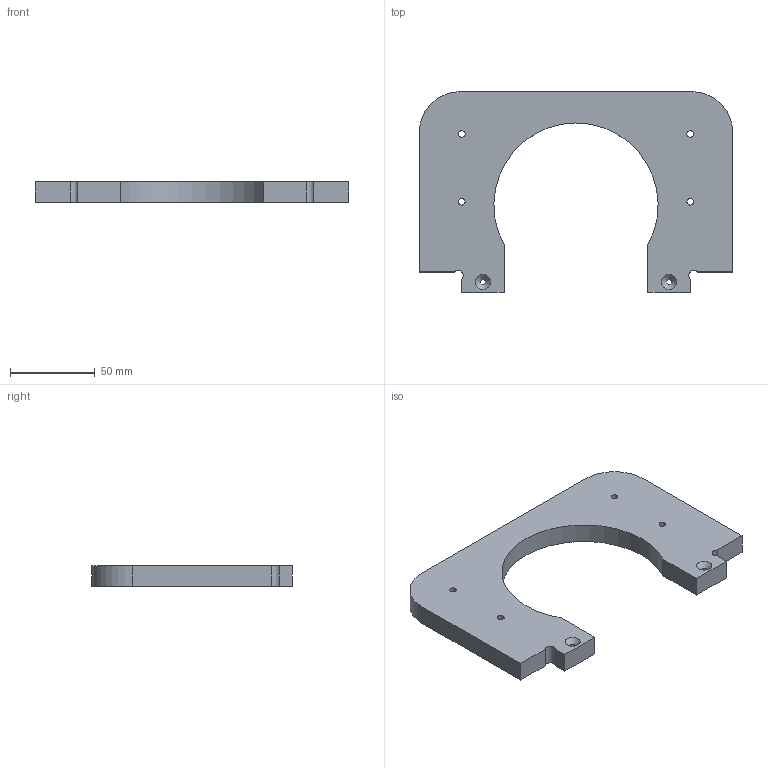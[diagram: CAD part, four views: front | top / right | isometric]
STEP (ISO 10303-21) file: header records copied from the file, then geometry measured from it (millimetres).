
FILE_DESCRIPTION(/* description */ ('','CAx-IF Rec.Pracs.---Representation and Presentation of Product Manufacturing Information (PMI)---4.0---2014-10-13'),/* implementation_level */ '2;1');
FILE_NAME(/* name */ 'TP-Top-Brace-DSLR-Holder-12mm.step',/* time_stamp */ '2024-12-17T12:27:03+01:00',/* author */ (''),/* organization */ (''),/* preprocessor_version */ 'ST-DEVELOPER v20',/* originating_system */ 'Autodesk Translation Framework v13.20.0.188',/* authorisation */ '');
FILE_SCHEMA (('AP242_MANAGED_MODEL_BASED_3D_ENGINEERING_MIM_LF { 1 0 10303 442 1 1 4 }'));
Length unit declared in the file: millimetre
Products named in the file (1): Top Brace of DSLR Holder
Bounding box: 185 x 118.5 x 12 mm (x, y, z)
Volume: 152381 mm3; surface area: 35383.6 mm2
Topology: 1 solids, 1 shells, 30 faces, 78 edges, 50 vertices
Faces by surface type: plane 13, cylinder 11, cone 6
Full cylindrical faces by diameter (mm): 3 x2, 4 x4
Entity records: 979 total; most frequent: DIRECTION 168, CARTESIAN_POINT 159, ORIENTED_EDGE 156, EDGE_CURVE 78, AXIS2_PLACEMENT_3D 59, LINE 50, VECTOR 50, VERTEX_POINT 50
